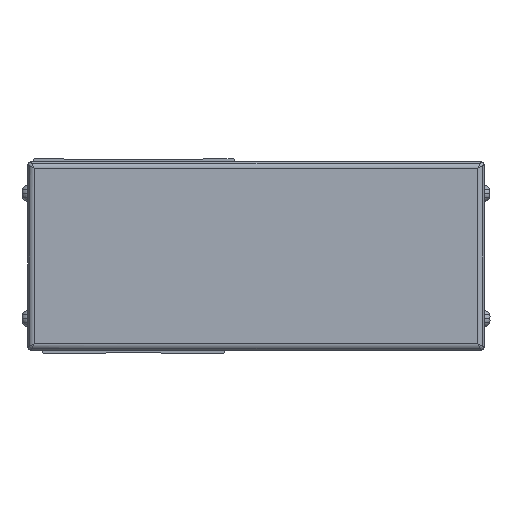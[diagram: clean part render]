
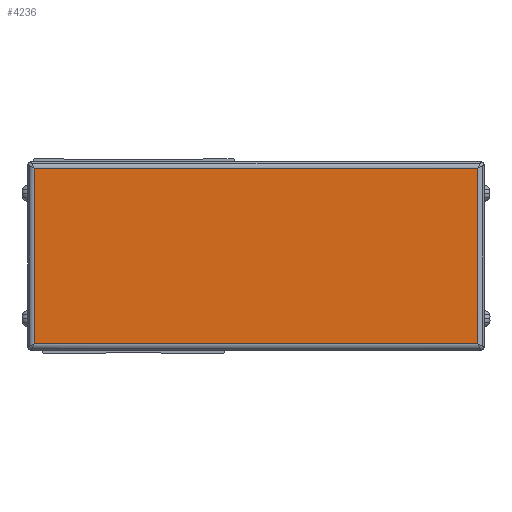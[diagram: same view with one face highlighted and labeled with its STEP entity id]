
A CAD part, front view. The second image highlights one B-rep face of the part: STEP entity #4236.
In plain terms, the highlighted planar face has unit normal (0, -1, 0).
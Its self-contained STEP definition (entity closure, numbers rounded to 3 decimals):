
#4236=ADVANCED_FACE('',(#9774),#9775,.T.);
#9774=FACE_OUTER_BOUND('',#17389,.T.);
#9775=PLANE('',#17390);
#17389=EDGE_LOOP('',(#29243,#29244,#29245,#29246));
#17390=AXIS2_PLACEMENT_3D('',#29247,#29248,#29249);
#29243=ORIENTED_EDGE('',*,*,#47385,.F.);
#29244=ORIENTED_EDGE('',*,*,#47386,.F.);
#29245=ORIENTED_EDGE('',*,*,#47387,.F.);
#29246=ORIENTED_EDGE('',*,*,#47388,.F.);
#29247=CARTESIAN_POINT('',(339.,81.,-4.));
#29248=DIRECTION('',(0.,-1.0,0.));
#29249=DIRECTION('',(0.,0.,1.0));
#47385=EDGE_CURVE('',#56030,#56497,#58005,.T.);
#47386=EDGE_CURVE('',#58006,#56030,#58007,.T.);
#47387=EDGE_CURVE('',#58008,#58006,#58009,.T.);
#47388=EDGE_CURVE('',#56497,#58008,#58010,.T.);
#56030=VERTEX_POINT('',#69568);
#56497=VERTEX_POINT('',#70207);
#58005=LINE('',#72335,#72336);
#58006=VERTEX_POINT('',#72337);
#58007=LINE('',#72338,#72339);
#58008=VERTEX_POINT('',#72340);
#58009=LINE('',#72341,#72342);
#58010=LINE('',#72343,#72344);
#69568=CARTESIAN_POINT('',(268.3,81.,24.));
#70207=CARTESIAN_POINT('',(409.7,81.,24.));
#72335=CARTESIAN_POINT('',(339.,81.,24.));
#72336=VECTOR('',#85187,10.0);
#72337=CARTESIAN_POINT('',(268.3,81.,-32.));
#72338=CARTESIAN_POINT('',(268.3,81.,-4.));
#72339=VECTOR('',#85188,10.0);
#72340=CARTESIAN_POINT('',(409.7,81.,-32.));
#72341=CARTESIAN_POINT('',(339.,81.,-32.));
#72342=VECTOR('',#85189,10.0);
#72343=CARTESIAN_POINT('',(409.7,81.,-4.));
#72344=VECTOR('',#85190,10.0);
#85187=DIRECTION('',(1.0,0.,0.));
#85188=DIRECTION('',(0.,0.,1.0));
#85189=DIRECTION('',(-1.0,0.,0.));
#85190=DIRECTION('',(0.,0.,-1.0));
